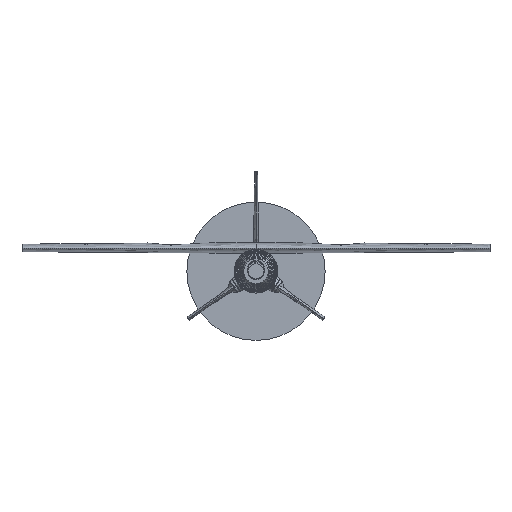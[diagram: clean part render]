
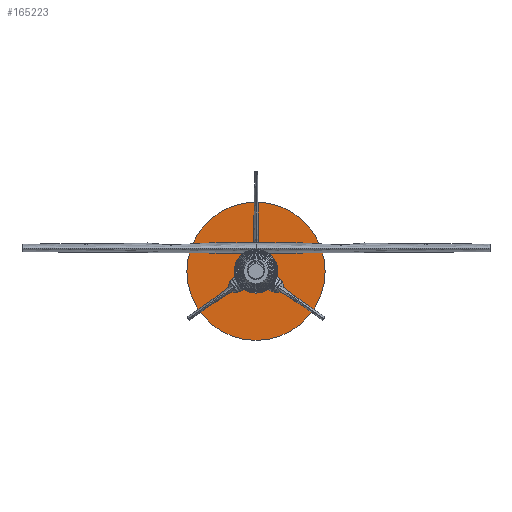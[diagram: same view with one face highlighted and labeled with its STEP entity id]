
A CAD part, left-side view. The second image highlights one B-rep face of the part: STEP entity #165223.
In plain terms, the highlighted planar face has unit normal (-1, 0, 0).
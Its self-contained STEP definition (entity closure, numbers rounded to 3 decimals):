
#165145 = CYLINDRICAL_SURFACE('',#165146,63.5);
#165146 = AXIS2_PLACEMENT_3D('',#165147,#165148,#165149);
#165147 = CARTESIAN_POINT('',(450.85,0.,0.));
#165148 = DIRECTION('',(1.,0.,0.));
#165149 = DIRECTION('',(-0.,0.,1.));
#165170 = VERTEX_POINT('',#165171);
#165171 = CARTESIAN_POINT('',(450.85,0.,63.5));
#165192 = EDGE_CURVE('',#165170,#165170,#165193,.T.);
#165193 = SURFACE_CURVE('',#165194,(#165199,#165206),.PCURVE_S1.);
#165194 = CIRCLE('',#165195,63.5);
#165195 = AXIS2_PLACEMENT_3D('',#165196,#165197,#165198);
#165196 = CARTESIAN_POINT('',(450.85,0.,0.));
#165197 = DIRECTION('',(1.,0.,0.));
#165198 = DIRECTION('',(-0.,0.,1.));
#165199 = PCURVE('',#165145,#165200);
#165200 = DEFINITIONAL_REPRESENTATION('',(#165201),#165205);
#165201 = LINE('',#165202,#165203);
#165202 = CARTESIAN_POINT('',(0.,0.));
#165203 = VECTOR('',#165204,1.);
#165204 = DIRECTION('',(1.,0.));
#165205 = ( GEOMETRIC_REPRESENTATION_CONTEXT(2) 
PARAMETRIC_REPRESENTATION_CONTEXT() REPRESENTATION_CONTEXT('2D SPACE',''
  ) );
#165206 = PCURVE('',#165207,#165212);
#165207 = PLANE('',#165208);
#165208 = AXIS2_PLACEMENT_3D('',#165209,#165210,#165211);
#165209 = CARTESIAN_POINT('',(450.85,0.,0.));
#165210 = DIRECTION('',(1.,0.,0.));
#165211 = DIRECTION('',(-0.,0.,1.));
#165212 = DEFINITIONAL_REPRESENTATION('',(#165213),#165217);
#165213 = CIRCLE('',#165214,63.5);
#165214 = AXIS2_PLACEMENT_2D('',#165215,#165216);
#165215 = CARTESIAN_POINT('',(0.,0.));
#165216 = DIRECTION('',(1.,0.));
#165217 = ( GEOMETRIC_REPRESENTATION_CONTEXT(2) 
PARAMETRIC_REPRESENTATION_CONTEXT() REPRESENTATION_CONTEXT('2D SPACE',''
  ) );
#165223 = ADVANCED_FACE('',(#165224),#165207,.F.);
#165224 = FACE_BOUND('',#165225,.T.);
#165225 = EDGE_LOOP('',(#165226));
#165226 = ORIENTED_EDGE('',*,*,#165192,.F.);
